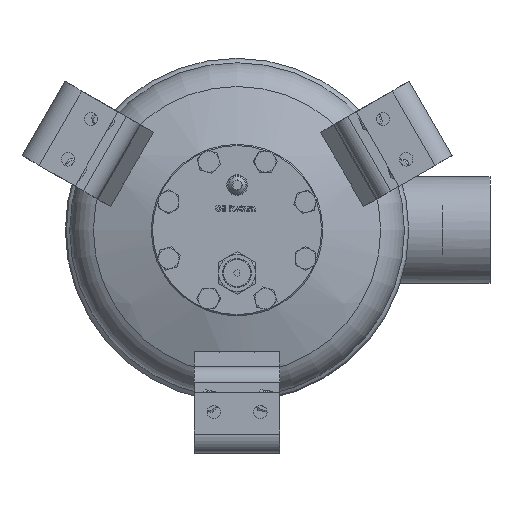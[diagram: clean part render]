
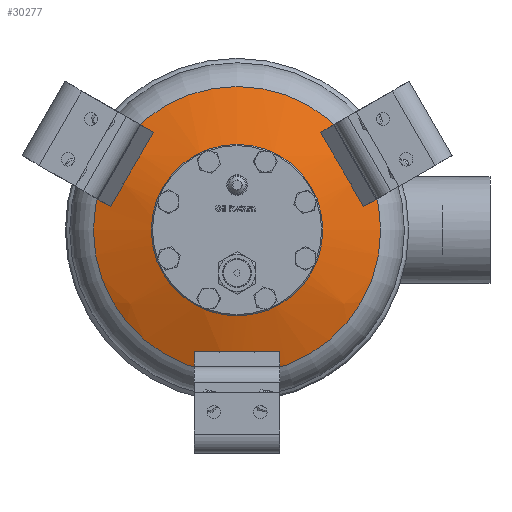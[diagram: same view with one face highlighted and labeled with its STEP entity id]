
A CAD part, front view. The second image highlights one B-rep face of the part: STEP entity #30277.
In plain terms, the highlighted spherical face has radius 279 mm.
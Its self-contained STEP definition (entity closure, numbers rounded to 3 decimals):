
#23=SPHERICAL_SURFACE('',#32691,279.);
#7633=FACE_BOUND('',#11418,.T.);
#7634=FACE_BOUND('',#11419,.T.);
#7635=FACE_BOUND('',#11420,.T.);
#7636=FACE_BOUND('',#11421,.T.);
#9341=FACE_OUTER_BOUND('',#11417,.T.);
#11417=EDGE_LOOP('',(#27845));
#11418=EDGE_LOOP('',(#27846));
#11419=EDGE_LOOP('',(#27847,#27848,#27849,#27850));
#11420=EDGE_LOOP('',(#27851,#27852,#27853,#27854));
#11421=EDGE_LOOP('',(#27855,#27856,#27857,#27858));
#11777=CIRCLE('',#30510,57.868);
#12179=CIRCLE('',#32060,14.846);
#12180=CIRCLE('',#32062,14.846);
#12181=CIRCLE('',#32064,278.939);
#12184=CIRCLE('',#32071,278.991);
#12253=CIRCLE('',#32241,14.846);
#12254=CIRCLE('',#32243,14.846);
#12255=CIRCLE('',#32245,278.939);
#12258=CIRCLE('',#32252,278.991);
#12421=CIRCLE('',#32692,117.235);
#12422=CIRCLE('',#32693,278.939);
#12423=CIRCLE('',#32694,14.846);
#12424=CIRCLE('',#32695,278.991);
#12425=CIRCLE('',#32696,14.846);
#12590=VERTEX_POINT('',#40211);
#14821=VERTEX_POINT('',#59906);
#14822=VERTEX_POINT('',#59907);
#14825=VERTEX_POINT('',#59915);
#14826=VERTEX_POINT('',#59916);
#14972=VERTEX_POINT('',#60446);
#14973=VERTEX_POINT('',#60447);
#14976=VERTEX_POINT('',#60455);
#14977=VERTEX_POINT('',#60456);
#15273=VERTEX_POINT('',#61652);
#15274=VERTEX_POINT('',#61654);
#15275=VERTEX_POINT('',#61655);
#15276=VERTEX_POINT('',#61657);
#15277=VERTEX_POINT('',#61659);
#15555=EDGE_CURVE('',#12590,#12590,#11777,.T.);
#18858=EDGE_CURVE('',#14821,#14822,#12179,.T.);
#18862=EDGE_CURVE('',#14825,#14826,#12180,.T.);
#18866=EDGE_CURVE('',#14822,#14825,#12181,.T.);
#18873=EDGE_CURVE('',#14826,#14821,#12184,.T.);
#19076=EDGE_CURVE('',#14972,#14973,#12253,.T.);
#19080=EDGE_CURVE('',#14976,#14977,#12254,.T.);
#19084=EDGE_CURVE('',#14973,#14976,#12255,.T.);
#19091=EDGE_CURVE('',#14977,#14972,#12258,.T.);
#19546=EDGE_CURVE('',#15273,#15273,#12421,.T.);
#19547=EDGE_CURVE('',#15274,#15275,#12422,.T.);
#19548=EDGE_CURVE('',#15275,#15276,#12423,.T.);
#19549=EDGE_CURVE('',#15276,#15277,#12424,.T.);
#19550=EDGE_CURVE('',#15277,#15274,#12425,.T.);
#27845=ORIENTED_EDGE('',*,*,#19546,.T.);
#27846=ORIENTED_EDGE('',*,*,#15555,.T.);
#27847=ORIENTED_EDGE('',*,*,#18866,.T.);
#27848=ORIENTED_EDGE('',*,*,#18862,.T.);
#27849=ORIENTED_EDGE('',*,*,#18873,.T.);
#27850=ORIENTED_EDGE('',*,*,#18858,.T.);
#27851=ORIENTED_EDGE('',*,*,#19084,.T.);
#27852=ORIENTED_EDGE('',*,*,#19080,.T.);
#27853=ORIENTED_EDGE('',*,*,#19091,.T.);
#27854=ORIENTED_EDGE('',*,*,#19076,.T.);
#27855=ORIENTED_EDGE('',*,*,#19547,.T.);
#27856=ORIENTED_EDGE('',*,*,#19548,.T.);
#27857=ORIENTED_EDGE('',*,*,#19549,.T.);
#27858=ORIENTED_EDGE('',*,*,#19550,.T.);
#30277=ADVANCED_FACE('',(#9341,#7633,#7634,#7635,#7636),#23,.T.);
#30510=AXIS2_PLACEMENT_3D('',#40212,#33091,#33092);
#32060=AXIS2_PLACEMENT_3D('',#59908,#37772,#37773);
#32062=AXIS2_PLACEMENT_3D('',#59917,#37779,#37780);
#32064=AXIS2_PLACEMENT_3D('',#59924,#37786,#37787);
#32071=AXIS2_PLACEMENT_3D('',#59939,#37804,#37805);
#32241=AXIS2_PLACEMENT_3D('',#60448,#38234,#38235);
#32243=AXIS2_PLACEMENT_3D('',#60457,#38241,#38242);
#32245=AXIS2_PLACEMENT_3D('',#60464,#38248,#38249);
#32252=AXIS2_PLACEMENT_3D('',#60479,#38266,#38267);
#32691=AXIS2_PLACEMENT_3D('',#61651,#39300,#39301);
#32692=AXIS2_PLACEMENT_3D('',#61653,#39302,#39303);
#32693=AXIS2_PLACEMENT_3D('',#61656,#39304,#39305);
#32694=AXIS2_PLACEMENT_3D('',#61658,#39306,#39307);
#32695=AXIS2_PLACEMENT_3D('',#61660,#39308,#39309);
#32696=AXIS2_PLACEMENT_3D('',#61661,#39310,#39311);
#33091=DIRECTION('center_axis',(0.,1.,0.));
#33092=DIRECTION('ref_axis',(0.,0.,-1.));
#37772=DIRECTION('center_axis',(-0.324,0.927,-0.187));
#37773=DIRECTION('ref_axis',(0.,-0.198,-0.98));
#37779=DIRECTION('center_axis',(-0.324,0.927,-0.187));
#37780=DIRECTION('ref_axis',(0.,-0.198,-0.98));
#37786=DIRECTION('center_axis',(-0.803,-0.375,-0.464));
#37787=DIRECTION('ref_axis',(0.,-0.778,0.629));
#37804=DIRECTION('center_axis',(0.803,0.375,0.464));
#37805=DIRECTION('ref_axis',(0.,0.778,-0.629));
#38234=DIRECTION('center_axis',(0.324,0.927,-0.187));
#38235=DIRECTION('ref_axis',(0.,-0.198,-0.98));
#38241=DIRECTION('center_axis',(0.324,0.927,-0.187));
#38242=DIRECTION('ref_axis',(0.,-0.198,-0.98));
#38248=DIRECTION('center_axis',(0.803,-0.375,-0.464));
#38249=DIRECTION('ref_axis',(0.,-0.778,0.629));
#38266=DIRECTION('center_axis',(-0.803,0.375,0.464));
#38267=DIRECTION('ref_axis',(0.,0.778,-0.629));
#39300=DIRECTION('center_axis',(0.,0.,1.));
#39301=DIRECTION('ref_axis',(1.,0.,0.));
#39302=DIRECTION('center_axis',(0.,-1.,0.));
#39303=DIRECTION('ref_axis',(-1.,0.,0.));
#39304=DIRECTION('center_axis',(0.,-0.375,
0.927));
#39305=DIRECTION('ref_axis',(0.,0.927,0.375));
#39306=DIRECTION('center_axis',(0.,0.927,
0.375));
#39307=DIRECTION('ref_axis',(0.,0.375,-0.927));
#39308=DIRECTION('center_axis',(0.,0.375,
-0.927));
#39309=DIRECTION('ref_axis',(0.,-0.927,-0.375));
#39310=DIRECTION('center_axis',(0.,0.927,
0.375));
#39311=DIRECTION('ref_axis',(0.,0.375,-0.927));
#40211=CARTESIAN_POINT('',(57.868,-81.126,0.));
#40212=CARTESIAN_POINT('Origin',(0.,-81.126,0.));
#59906=CARTESIAN_POINT('',(99.48,-65.693,40.479));
#59907=CARTESIAN_POINT('',(92.543,-68.69,37.658));
#59908=CARTESIAN_POINT('Origin',(90.385,-66.511,52.184));
#59915=CARTESIAN_POINT('',(78.885,-68.69,61.316));
#59916=CARTESIAN_POINT('',(84.796,-65.693,65.913));
#59917=CARTESIAN_POINT('Origin',(90.385,-66.511,52.184));
#59924=CARTESIAN_POINT('Origin',(-4.671,189.628,-2.697));
#59939=CARTESIAN_POINT('Origin',(1.753,192.625,1.012));
#60446=CARTESIAN_POINT('',(-84.796,-65.693,65.913));
#60447=CARTESIAN_POINT('',(-78.885,-68.69,61.316));
#60448=CARTESIAN_POINT('Origin',(-90.385,-66.511,52.184));
#60455=CARTESIAN_POINT('',(-92.543,-68.69,37.658));
#60456=CARTESIAN_POINT('',(-99.48,-65.693,40.479));
#60457=CARTESIAN_POINT('Origin',(-90.385,-66.511,52.184));
#60464=CARTESIAN_POINT('Origin',(4.671,189.628,-2.697));
#60479=CARTESIAN_POINT('Origin',(-1.753,192.625,1.012));
#61651=CARTESIAN_POINT('Origin',(0.,191.807,
0.));
#61652=CARTESIAN_POINT('',(-117.235,-61.367,0.));
#61653=CARTESIAN_POINT('Origin',(0.,-61.367,
0.));
#61654=CARTESIAN_POINT('',(-13.658,-68.69,-98.974));
#61655=CARTESIAN_POINT('',(13.658,-68.69,-98.974));
#61656=CARTESIAN_POINT('Origin',(0.,189.628,
5.393));
#61657=CARTESIAN_POINT('',(14.684,-65.693,-106.391));
#61658=CARTESIAN_POINT('Origin',(0.,-66.511,
-104.367));
#61659=CARTESIAN_POINT('',(-14.684,-65.693,-106.391));
#61660=CARTESIAN_POINT('Origin',(0.,192.625,
-2.024));
#61661=CARTESIAN_POINT('Origin',(0.,-66.511,
-104.367));
